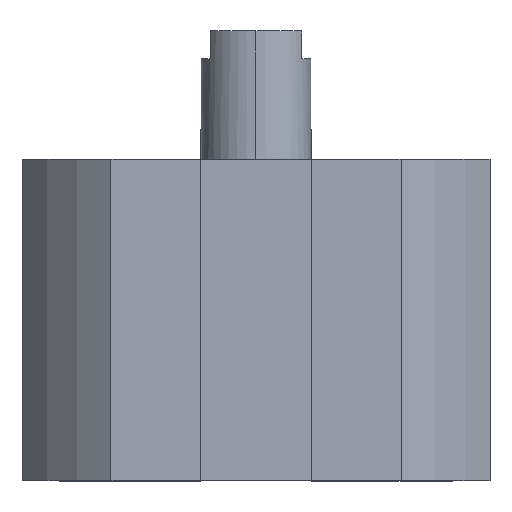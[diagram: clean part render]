
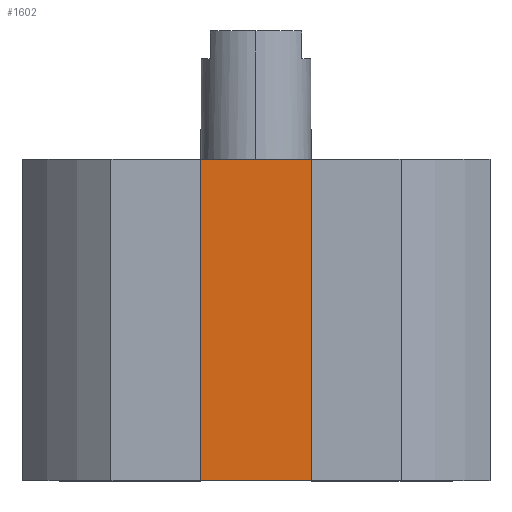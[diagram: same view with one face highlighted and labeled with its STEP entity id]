
A CAD part, top view. The second image highlights one B-rep face of the part: STEP entity #1602.
In plain terms, the highlighted planar face has unit normal (0, 0, 1).
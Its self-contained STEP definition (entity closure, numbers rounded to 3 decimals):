
#28 = CARTESIAN_POINT ( 'NONE',  ( -7.7, -35., 17. ) ) ;
#80 = VERTEX_POINT ( 'NONE', #1177 ) ;
#113 = ORIENTED_EDGE ( 'NONE', *, *, #1432, .T. ) ;
#163 = AXIS2_PLACEMENT_3D ( 'NONE', #2201, #2652, #1976 ) ;
#246 = LINE ( 'NONE', #2587, #2446 ) ;
#285 = CARTESIAN_POINT ( 'NONE',  ( 7.7, 0., 17. ) ) ;
#314 = EDGE_CURVE ( 'NONE', #745, #80, #246, .T. ) ;
#325 = ORIENTED_EDGE ( 'NONE', *, *, #2522, .T. ) ;
#585 = FACE_OUTER_BOUND ( 'NONE', #2392, .T. ) ;
#643 = LINE ( 'NONE', #1454, #2394 ) ;
#745 = VERTEX_POINT ( 'NONE', #28 ) ;
#800 = VERTEX_POINT ( 'NONE', #1801 ) ;
#822 = VERTEX_POINT ( 'NONE', #285 ) ;
#1029 = ORIENTED_EDGE ( 'NONE', *, *, #314, .F. ) ;
#1106 = EDGE_CURVE ( 'NONE', #80, #822, #1822, .T. ) ;
#1121 = PLANE ( 'NONE',  #163 ) ;
#1177 = CARTESIAN_POINT ( 'NONE',  ( -7.7, 0., 17. ) ) ;
#1252 = VECTOR ( 'NONE', #1325, 1000. ) ;
#1325 = DIRECTION ( 'NONE',  ( 1., 0., 0. ) ) ;
#1432 = EDGE_CURVE ( 'NONE', #800, #822, #2231, .T. ) ;
#1454 = CARTESIAN_POINT ( 'NONE',  ( 0., -35., 17. ) ) ;
#1466 = CARTESIAN_POINT ( 'NONE',  ( 7.7, -35., 17. ) ) ;
#1602 = ADVANCED_FACE ( 'NONE', ( #585 ), #1121, .T. ) ;
#1665 = DIRECTION ( 'NONE',  ( 0., 1., 0. ) ) ;
#1715 = DIRECTION ( 'NONE',  ( 0., 1., 0. ) ) ;
#1801 = CARTESIAN_POINT ( 'NONE',  ( 7.7, -35., 17. ) ) ;
#1822 = LINE ( 'NONE', #2634, #1252 ) ;
#1875 = DIRECTION ( 'NONE',  ( 1., 0., 0. ) ) ;
#1976 = DIRECTION ( 'NONE',  ( 1., 0., 0. ) ) ;
#2159 = VECTOR ( 'NONE', #1665, 1000. ) ;
#2201 = CARTESIAN_POINT ( 'NONE',  ( 0., -35., 17. ) ) ;
#2231 = LINE ( 'NONE', #1466, #2159 ) ;
#2392 = EDGE_LOOP ( 'NONE', ( #2671, #1029, #325, #113 ) ) ;
#2394 = VECTOR ( 'NONE', #1875, 1000. ) ;
#2446 = VECTOR ( 'NONE', #1715, 1000. ) ;
#2522 = EDGE_CURVE ( 'NONE', #745, #800, #643, .T. ) ;
#2587 = CARTESIAN_POINT ( 'NONE',  ( -7.7, -35., 17. ) ) ;
#2634 = CARTESIAN_POINT ( 'NONE',  ( 0., 0., 17. ) ) ;
#2652 = DIRECTION ( 'NONE',  ( 0., 0., 1. ) ) ;
#2671 = ORIENTED_EDGE ( 'NONE', *, *, #1106, .F. ) ;
